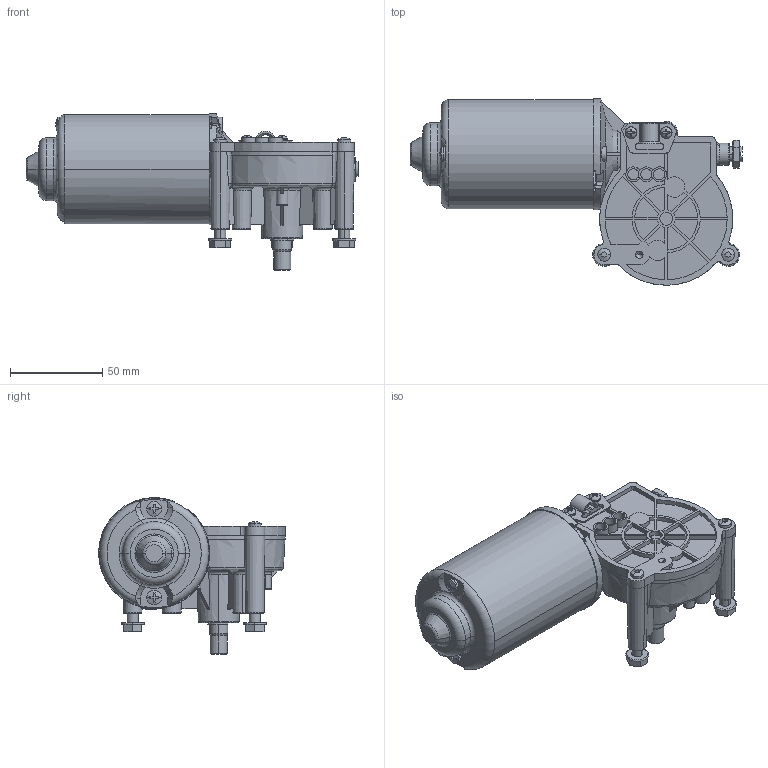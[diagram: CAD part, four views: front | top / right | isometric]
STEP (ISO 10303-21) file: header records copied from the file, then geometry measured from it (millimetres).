
FILE_DESCRIPTION((''),'2;1');
FILE_NAME('1113726_0__E_ASM','2006-03-14T',('xavier.rovira'),(''),'PRO/ENGINEER BY PARAMETRIC TECHNOLOGY CORPORATION, 2005070','PRO/ENGINEER BY PARAMETRIC TECHNOLOGY CORPORATION, 2005070','');
FILE_SCHEMA(('CONFIG_CONTROL_DESIGN'));
Length unit declared in the file: millimetre
Products named in the file (18): 1110005020ASTRAY; 10000852500; 1115036020AST_ASM; 1000137340AST; 1000145350_; 11150380200_ASM; 1110001020GUI; 1000292370AST; 1000136340AST; 11150290200_ASM; 11100030300; 1000084340AST; 1000392370AST; 1000350170ASTB; 11100120800; 1000406340AST; 10004073409; 1113726_0__E_ASM
Assembly tree (23 placements, depth 4):
  1113726_0__E_ASM
    11150380200_ASM
      1115036020AST_ASM
        1110005020ASTRAY
        10000852500
      1000137340AST
      1000145350_
    11150290200_ASM
      1110001020GUI
      1000292370AST  x2
      1000136340AST  x2
    11100030300
    1000084340AST  x2
    1000392370AST
    1000350170ASTB
    11100120800
    1000406340AST  x2
    10004073409  x3
Bounding box: 179.5 x 100.9 x 84.69 mm (x, y, z)
Volume: 323112.3 mm3; surface area: 92973.2 mm2
Topology: 20 solids, 20 shells, 1093 faces, 2761 edges, 1720 vertices
Faces by surface type: plane 480, cylinder 314, torus 112, bspline 107, cone 76, sphere 4
Entity records: 41872 total; most frequent: CARTESIAN_POINT 11389, ORIENTED_EDGE 4826, DIRECTION 4769, PRESENTATION_STYLE_ASSIGNMENT 2427, STYLED_ITEM 2427, CURVE_STYLE 2413, EDGE_CURVE 2413, AXIS2_PLACEMENT_3D 1874
